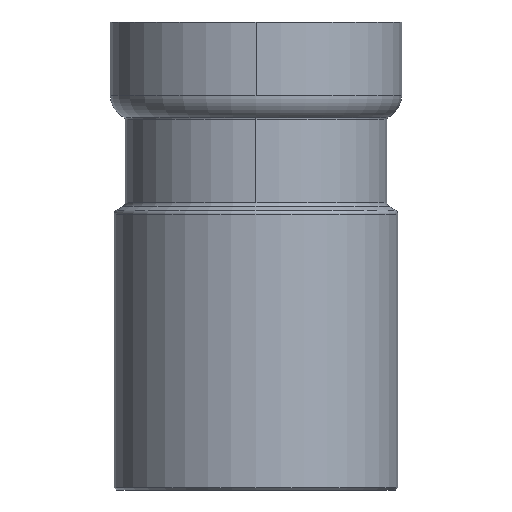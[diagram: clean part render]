
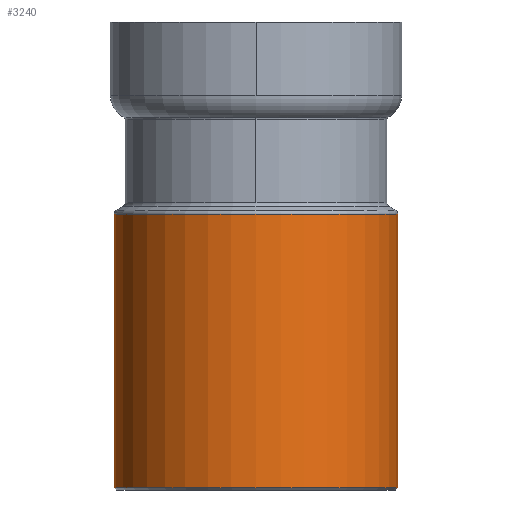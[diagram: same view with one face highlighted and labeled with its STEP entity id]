
A CAD part, front view. The second image highlights one B-rep face of the part: STEP entity #3240.
In plain terms, the highlighted cylindrical face has radius 30.15 mm (diameter 60.3 mm), a partial arc.
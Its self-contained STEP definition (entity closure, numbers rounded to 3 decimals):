
#910=CARTESIAN_POINT('',(87.416,64.829,-30.15));
#920=VERTEX_POINT('',#910);
#1010=CARTESIAN_POINT('',(87.416,64.829,30.15));
#1020=VERTEX_POINT('',#1010);
#1050=CARTESIAN_POINT('',(87.416,64.829,0.
));
#1060=DIRECTION('',(1.,0.,0.));
#1070=DIRECTION('',(0.,0.,-1.));
#1080=AXIS2_PLACEMENT_3D('',#1050,#1060,#1070);
#1090=CIRCLE('',#1080,30.15);
#1100=EDGE_CURVE('',#1020,#920,#1090,.T.);
#2800=CARTESIAN_POINT('',(145.577,64.829,-30.15));
#2810=VERTEX_POINT('',#2800);
#2840=CARTESIAN_POINT('',(145.577,64.829,0.
));
#2850=DIRECTION('',(1.,0.,0.));
#2860=DIRECTION('',(0.,0.,-1.));
#2870=AXIS2_PLACEMENT_3D('',#2840,#2850,#2860);
#2880=CIRCLE('',#2870,30.15);
#2890=CARTESIAN_POINT('',(145.577,64.829,30.15));
#2900=VERTEX_POINT('',#2890);
#2910=EDGE_CURVE('',#2900,#2810,#2880,.T.);
#3030=CARTESIAN_POINT('',(122.636,64.829,0.
));
#3040=DIRECTION('',(1.,0.,0.));
#3050=DIRECTION('',(0.,0.,-1.));
#3060=AXIS2_PLACEMENT_3D('',#3030,#3040,#3050);
#3070=CYLINDRICAL_SURFACE('',#3060,30.15);
#3080=CARTESIAN_POINT('',(122.636,64.829,30.15));
#3090=DIRECTION('',(1.,0.,0.));
#3100=VECTOR('',#3090,1.);
#3110=LINE('',#3080,#3100);
#3120=EDGE_CURVE('',#1020,#2900,#3110,.T.);
#3130=ORIENTED_EDGE('',*,*,#3120,.F.);
#3140=ORIENTED_EDGE('',*,*,#2910,.F.);
#3150=CARTESIAN_POINT('',(122.636,64.829,-30.15));
#3160=DIRECTION('',(1.,0.,0.));
#3170=VECTOR('',#3160,1.);
#3180=LINE('',#3150,#3170);
#3190=EDGE_CURVE('',#920,#2810,#3180,.T.);
#3200=ORIENTED_EDGE('',*,*,#3190,.T.);
#3210=ORIENTED_EDGE('',*,*,#1100,.T.);
#3220=EDGE_LOOP('',(#3210,#3200,#3140,#3130));
#3230=FACE_OUTER_BOUND('',#3220,.T.);
#3240=ADVANCED_FACE('',(#3230),#3070,.T.);
